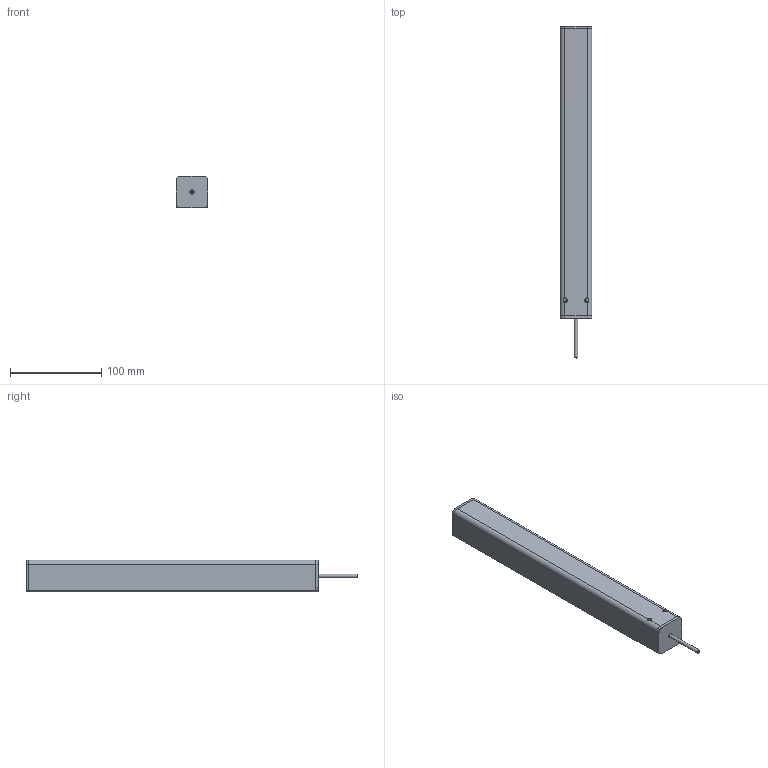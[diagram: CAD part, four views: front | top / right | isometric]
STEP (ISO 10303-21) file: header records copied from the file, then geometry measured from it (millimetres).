
FILE_DESCRIPTION(/* description */ ('Unknown'),/* implementation_level */ '2;1');
FILE_NAME(/* name */ '106.00002 Lineareinheit LA 1420_eingefahren',/* time_stamp */ '2017-08-23T16:32:30+02:00',/* author */ ('Unknown'),/* organization */ ('Unknown'),/* preprocessor_version */ 'ST-DEVELOPER v16.7',/* originating_system */ 'DEX',/* authorisation */ $);
FILE_SCHEMA (('AUTOMOTIVE_DESIGN {1 0 10303 214 3 1 1}'));
Products named in the file (9): 106.00002; 119.00002; 142.00014; 115.00001; 142.00011; 122.00018; 125.00051; 123.00002; 113.00002_70mm
Assembly tree (9 placements, depth 2):
  106.00002
    119.00002
    142.00014  x2
    115.00001
    142.00011
    122.00018
    125.00051
    123.00002
    113.00002_70mm
Bounding box: 35 x 363.5 x 35 mm (x, y, z)
Volume: 233132.4 mm3; surface area: 160013 mm2
Topology: 8 solids, 8 shells, 776 faces, 1818 edges, 1082 vertices
Faces by surface type: cylinder 273, bspline 224, plane 204, cone 36, torus 27, sphere 12
Full cylindrical faces by diameter (mm): 2.2 x1, 4 x7, 4.134 x4, 5 x1, 6.647 x1, 8.376 x1, 17.3 x1, 19 x1, 20.8 x3, 21 x1, 25 x1, 28.3 x1, 30.4 x1, 30.63 x1
Entity records: 74513 total; most frequent: CARTESIAN_POINT 58862, ORIENTED_EDGE 3422, DIRECTION 2541, EDGE_CURVE 1711, VERTEX_POINT 1037, AXIS2_PLACEMENT_3D 983, EDGE_LOOP 858, FACE_BOUND 858
